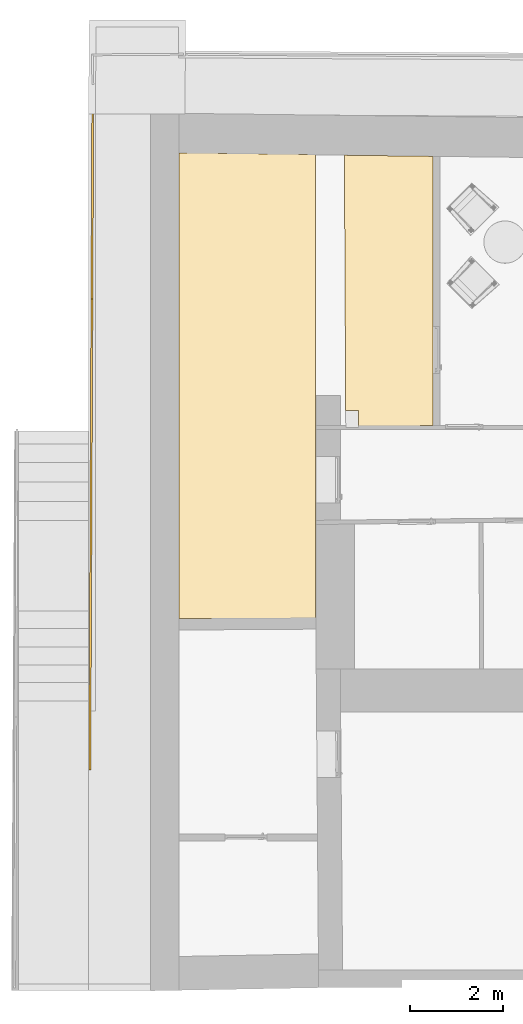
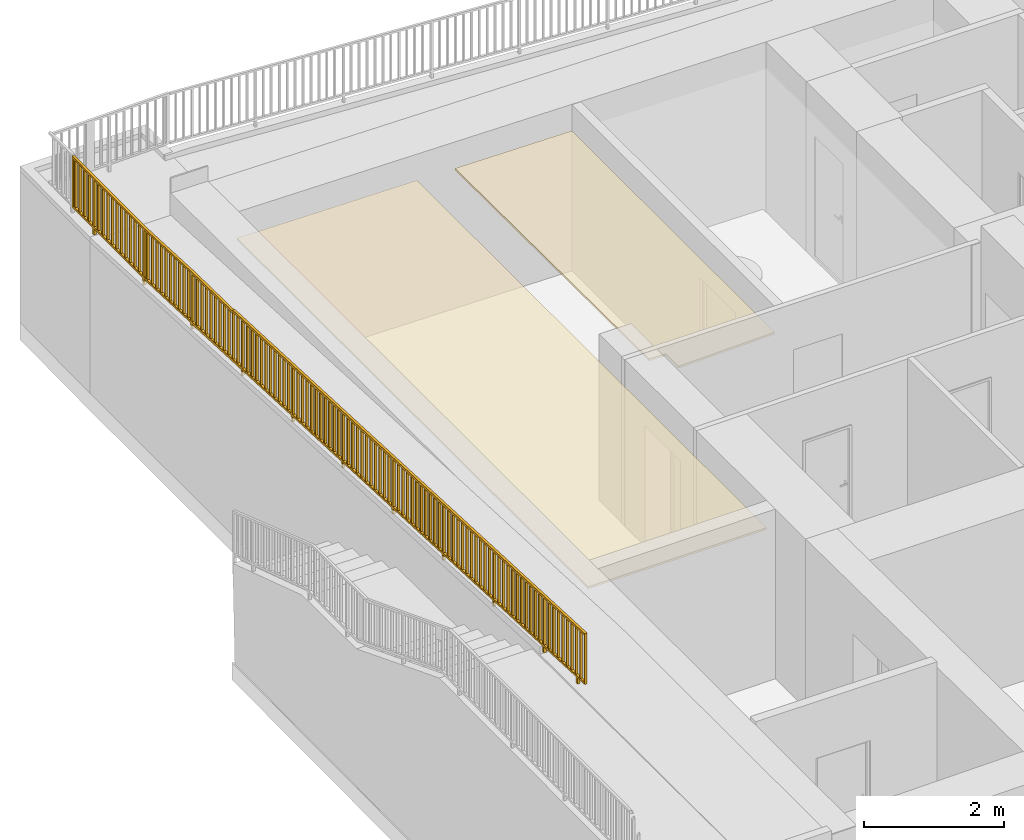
# One storey, part 13 of 17: 2 coverings, 1 railing.
"""IFC2X3 building model written with IfcOpenShell, lengths in millimetres."""

from ifc_helpers import new_model, entity, si_unit, converted_unit, derived_unit, direction, frame, origin, place, context, subcontext, project, spatial, polyline, outline, extrude, source, transform, mapped, material, layer, layer_set, layer_usage, type_object, type_shapes, element, save


model = new_model("IFC2X3")

# Units and contexts
model_context = context("Model", 3, precision=0.01, world=origin(), true_north=direction((6.12303176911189e-17, 1.0)))
context_of_model = context(None, 3, precision=0.01, world=origin(), true_north=direction((6.12303176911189e-17, 1.0)))
body_context = subcontext(model_context, "Body", "Model", "MODEL_VIEW")
ifc_project = project(units=[si_unit("LENGTHUNIT", "METRE", prefix="MILLI"), si_unit("AREAUNIT", "SQUARE_METRE"), si_unit("VOLUMEUNIT", "CUBIC_METRE"), converted_unit("PLANEANGLEUNIT", "DEGREE", entity("IfcRatioMeasure", 0.0174532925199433), si_unit("PLANEANGLEUNIT", "RADIAN"), dimensions=[0, 0, 0, 0, 0, 0, 0]), si_unit("MASSUNIT", "GRAM", prefix="KILO"), derived_unit("MASSDENSITYUNIT", [(si_unit("MASSUNIT", "GRAM", prefix="KILO"), 1), (si_unit("LENGTHUNIT", "METRE"), -3)]), si_unit("TIMEUNIT", "SECOND"), si_unit("FREQUENCYUNIT", "HERTZ"), si_unit("THERMODYNAMICTEMPERATUREUNIT", "DEGREE_CELSIUS"), derived_unit("THERMALTRANSMITTANCEUNIT", [(si_unit("MASSUNIT", "GRAM", prefix="KILO"), 1), (si_unit("THERMODYNAMICTEMPERATUREUNIT", "KELVIN"), -1), (si_unit("TIMEUNIT", "SECOND"), -3)]), derived_unit("VOLUMETRICFLOWRATEUNIT", [(si_unit("LENGTHUNIT", "METRE"), 3), (si_unit("TIMEUNIT", "SECOND"), -1)]), si_unit("ELECTRICCURRENTUNIT", "AMPERE"), si_unit("ELECTRICVOLTAGEUNIT", "VOLT"), si_unit("POWERUNIT", "WATT"), si_unit("FORCEUNIT", "NEWTON", prefix="KILO"), si_unit("ILLUMINANCEUNIT", "LUX"), si_unit("LUMINOUSFLUXUNIT", "LUMEN"), si_unit("LUMINOUSINTENSITYUNIT", "CANDELA"), derived_unit("USERDEFINED", [(si_unit("MASSUNIT", "GRAM", prefix="KILO"), -1), (si_unit("LENGTHUNIT", "METRE"), -2), (si_unit("TIMEUNIT", "SECOND"), 3), (si_unit("LUMINOUSFLUXUNIT", "LUMEN"), 1)]), derived_unit("LINEARVELOCITYUNIT", [(si_unit("LENGTHUNIT", "METRE"), 1), (si_unit("TIMEUNIT", "SECOND"), -1)]), si_unit("PRESSUREUNIT", "PASCAL"), derived_unit("USERDEFINED", [(si_unit("LENGTHUNIT", "METRE"), -2), (si_unit("MASSUNIT", "GRAM", prefix="KILO"), 1), (si_unit("TIMEUNIT", "SECOND"), -2)])], contexts=[model_context, context_of_model])

# Site, building, storey
site_placement = place(None, frame((121442.264707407, 135347.995453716, -1800.0)))
site = spatial("IfcSite", under=ifc_project, at=site_placement, Name="Surface", CompositionType="ELEMENT")
building_placement = place(site_placement, origin())
building = spatial("IfcBuilding", under=site, at=building_placement, CompositionType="ELEMENT")
storey_placement = place(building_placement, frame((0.0, 0.0, -1490.0)))
storey = spatial("IfcBuildingStorey", under=building, at=storey_placement, Name="Kelder", CompositionType="ELEMENT", Elevation=-1489.99999999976)

# Railing
railing_type = type_object("IfcRailingType", Name="Railings 2", PredefinedType="NOTDEFINED")
shared_shape = source(origin(), body_context, "Body", "SweptSolid", [
    extrude(outline(polyline([(-7385.12956600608, 89.9207020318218), (-7431.74885868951, -799.628393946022), (2751.2751291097, -808.313016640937), (2752.27474206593, -789.239265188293), (3918.66476469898, -822.810457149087), (5333.66476469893, -822.810457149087), (7386.8154602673, -930.411525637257), (7433.5682323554, -38.3154908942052), (6837.65888096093, -7.08520513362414), (6843.3496635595, 101.50139548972), (6805.7739523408, 103.470655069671), (6800.08316974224, -5.1159455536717), (5396.1437697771, 68.4614006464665), (5401.8182767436, 176.737443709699), (5364.24679335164, 178.787375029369), (5358.71964137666, 73.3230327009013), (4008.76754747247, 81.372217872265), (4014.03896344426, 181.956826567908), (3976.36272855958, 182.007980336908), (3971.5366388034, 89.9207020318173), (2553.85128123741, 89.9207020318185), (2558.77823932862, 183.932662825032), (2521.10200444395, 183.983816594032), (2516.1723654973, 89.9207020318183), (1098.40710352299, 89.9207020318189), (1103.43761648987, 185.908607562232), (1068.39207804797, 185.956189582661), (1063.35907141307, 89.920702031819), (-354.406190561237, 89.9207020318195), (-349.272309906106, 187.88098055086), (-384.317848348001, 187.928562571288), (-389.454222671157, 89.9207020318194), (-1807.21948464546, 89.9207020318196), (-1801.98223630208, 189.853353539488), (-1837.02777474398, 189.900935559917), (-1842.26751675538, 89.92070203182), (-3260.03277872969, 89.9207020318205), (-3254.69216269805, 191.825726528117), (-3289.73770113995, 191.873308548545), (-3295.08081083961, 89.9207020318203), (-4712.84607281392, 89.9207020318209), (-4707.40208909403, 193.798099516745), (-4742.44762753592, 193.845681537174), (-4747.89410492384, 89.9207020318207), (-6165.65936689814, 89.9207020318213), (-6160.11201549, 195.770472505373), (-6195.1575539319, 195.818054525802), (-6200.70739900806, 89.9207020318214), (-7136.68885689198, 89.9207020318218), (-7131.07241672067, 197.088764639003), (-7171.04794009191, 197.143040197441), (-7176.66722472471, 89.9207020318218), (-7385.12956600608, 89.9207020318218)]), holes=[polyline([(2514.33809322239, 54.9207020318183), (2470.86198992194, -774.652767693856), (2358.14731924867, -774.545015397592), (2401.61777549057, 54.9207020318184), (2514.33809322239, 54.9207020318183)]), polyline([(2508.5564414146, -774.356327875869), (2551.56900189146, 46.3722178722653), (2657.74746735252, 46.3722178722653), (2614.72958755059, -774.457826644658), (2508.5564414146, -774.356327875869)]), polyline([(2381.59032857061, 54.9207020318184), (2338.51339533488, -767.036149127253), (2225.86465016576, -766.928459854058), (2268.93593964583, 54.9207020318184), (2381.59032857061, 54.9207020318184)]), polyline([(2248.90849272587, 54.9207020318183), (2205.83820658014, -766.909315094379), (2093.18946141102, -766.801625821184), (2136.25410380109, 54.9207020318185), (2248.90849272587, 54.9207020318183)]), polyline([(2116.22665688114, 54.9207020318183), (2073.16301782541, -766.782481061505), (1960.51427265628, -766.674791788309), (2003.57226795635, 54.9207020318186), (2116.22665688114, 54.9207020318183)]), polyline([(1983.5448210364, 54.9207020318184), (1940.48782907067, -766.65564702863), (1830.52078539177, -766.550521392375), (1873.57226795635, 54.9207020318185), (1983.5448210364, 54.9207020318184)]), polyline([(1853.5448210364, 54.9207020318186), (1810.49434180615, -766.531376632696), (1700.52729812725, -766.426250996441), (1743.57226795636, 54.9207020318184), (1853.5448210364, 54.9207020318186)]), polyline([(1723.5448210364, 54.9207020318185), (1680.50085454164, -766.407106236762), (1570.35541482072, -766.301810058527), (1613.39386297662, 54.9207020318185), (1723.5448210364, 54.9207020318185)]), polyline([(1593.36641605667, 54.9207020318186), (1550.32897123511, -766.282665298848), (1440.1835315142, -766.177369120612), (1483.21545799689, 54.9207020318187), (1593.36641605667, 54.9207020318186)]), polyline([(1463.18801107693, 54.9207020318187), (1420.15708792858, -766.158224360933), (1310.01164820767, -766.052928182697), (1353.03705301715, 54.9207020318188), (1463.18801107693, 54.9207020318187)]), polyline([(1333.0096060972, 54.9207020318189), (1289.98520462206, -766.033783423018), (1179.83976490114, -765.928487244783), (1222.85864803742, 54.9207020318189), (1333.0096060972, 54.9207020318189)]), polyline([(1202.83120111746, 54.9207020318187), (1159.81332131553, -765.909342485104), (1053.56027477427, -765.807767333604), (1096.57283124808, 54.9207020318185), (1202.83120111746, 54.9207020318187)]), polyline([(1061.52479913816, 54.9207020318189), (1018.57205540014, -764.66647234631), (905.857384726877, -764.558720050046), (948.80448140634, 54.920702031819), (1061.52479913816, 54.9207020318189)]), polyline([(928.777034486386, 54.9207020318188), (885.830941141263, -764.539575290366), (773.18219597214, -764.431886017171), (816.122645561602, 54.9207020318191), (928.777034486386, 54.9207020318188)]), polyline([(796.095198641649, 54.9207020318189), (753.155752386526, -764.412741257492), (640.507007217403, -764.305051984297), (683.440809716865, 54.9207020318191), (796.095198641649, 54.9207020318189)]), polyline([(663.413362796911, 54.920702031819), (620.480563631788, -764.285907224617), (507.831818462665, -764.178217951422), (550.758973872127, 54.9207020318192), (663.413362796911, 54.920702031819)]), polyline([(530.731526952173, 54.920702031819), (487.805374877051, -764.159073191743), (377.838331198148, -764.053947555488), (420.758973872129, 54.9207020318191), (530.731526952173, 54.920702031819)]), polyline([(400.731526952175, 54.9207020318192), (357.811887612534, -764.034802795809), (247.844843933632, -763.929677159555), (290.75897387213, 54.9207020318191), (400.731526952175, 54.9207020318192)]), polyline([(270.731526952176, 54.9207020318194), (227.818400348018, -763.910532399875), (117.672960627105, -763.80523622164), (160.580568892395, 54.9207020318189), (270.731526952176, 54.9207020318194)]), polyline([(140.553121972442, 54.9207020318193), (97.6465170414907, -763.786091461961), (-12.498922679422, -763.680795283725), (30.4021639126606, 54.9207020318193), (140.553121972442, 54.9207020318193)]), polyline([(10.3747169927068, 54.9207020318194), (-32.5253662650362, -763.661650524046), (-142.670805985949, -763.55635434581), (-99.7762410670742, 54.9207020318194), (10.3747169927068, 54.9207020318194)]), polyline([(-119.803687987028, 54.9207020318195), (-162.697249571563, -763.537209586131), (-272.842689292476, -763.431913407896), (-229.954646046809, 54.9207020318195), (-119.803687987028, 54.9207020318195)]), polyline([(-249.982092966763, 54.9207020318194), (-292.86913287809, -763.412768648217), (-399.12217941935, -763.311193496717), (-356.240462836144, 54.9207020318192), (-249.982092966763, 54.9207020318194)]), polyline([(-391.185127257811, 56.8930750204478), (-434.137870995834, -762.694099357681), (-546.852541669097, -762.586347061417), (-503.905444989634, 56.8930750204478), (-391.185127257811, 56.8930750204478)]), polyline([(-523.932891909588, 56.8930750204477), (-566.878985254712, -762.567202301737), (-679.527730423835, -762.459513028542), (-636.587280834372, 56.8930750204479), (-523.932891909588, 56.8930750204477)]), polyline([(-656.614727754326, 56.8930750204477), (-699.554174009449, -762.440368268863), (-812.202919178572, -762.332678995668), (-769.26911667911, 56.893075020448), (-656.614727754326, 56.8930750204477)]), polyline([(-789.296563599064, 56.8930750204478), (-832.229362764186, -762.313534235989), (-944.878107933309, -762.205844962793), (-901.950952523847, 56.8930750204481), (-789.296563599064, 56.8930750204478)]), polyline([(-921.978399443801, 56.8930750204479), (-964.904551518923, -762.186700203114), (-1074.87159519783, -762.081574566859), (-1031.95095252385, 56.893075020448), (-921.978399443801, 56.8930750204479)]), polyline([(-1051.9783994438, 56.8930750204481), (-1094.89803878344, -762.06242980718), (-1204.86508246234, -761.957304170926), (-1161.95095252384, 56.8930750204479), (-1051.9783994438, 56.8930750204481)]), polyline([(-1181.9783994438, 56.8930750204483), (-1224.89152604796, -761.938159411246), (-1335.03696576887, -761.832863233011), (-1292.12935750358, 56.8930750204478), (-1181.9783994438, 56.8930750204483)]), polyline([(-1312.15680442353, 56.8930750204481), (-1355.06340935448, -761.813718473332), (-1465.2088490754, -761.708422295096), (-1422.30776248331, 56.8930750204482), (-1312.15680442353, 56.8930750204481)]), polyline([(-1442.33520940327, 56.8930750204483), (-1485.23529266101, -761.689277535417), (-1595.38073238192, -761.583981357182), (-1552.48616746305, 56.8930750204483), (-1442.33520940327, 56.8930750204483)]), polyline([(-1572.513614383, 56.8930750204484), (-1615.40717596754, -761.564836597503), (-1725.55261568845, -761.459540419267), (-1682.66457244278, 56.8930750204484), (-1572.513614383, 56.8930750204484)]), polyline([(-1702.69201936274, 56.8930750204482), (-1745.57905927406, -761.440395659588), (-1851.83210581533, -761.338820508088), (-1808.95038923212, 56.893075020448), (-1702.69201936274, 56.8930750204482)]), polyline([(-1843.99842134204, 56.8930750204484), (-1886.95116508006, -762.69409935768), (-1999.66583575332, -762.586347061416), (-1956.71873907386, 56.8930750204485), (-1843.99842134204, 56.8930750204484)]), polyline([(-1976.74618599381, 56.8930750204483), (-2019.69227933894, -762.567202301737), (-2132.34102450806, -762.459513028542), (-2089.4005749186, 56.8930750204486), (-1976.74618599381, 56.8930750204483)]), polyline([(-2109.42802183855, 56.8930750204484), (-2152.36746809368, -762.440368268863), (-2265.0162132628, -762.332678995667), (-2222.08241076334, 56.8930750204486), (-2109.42802183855, 56.8930750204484)]), polyline([(-2242.10985768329, 56.8930750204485), (-2285.04265684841, -762.313534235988), (-2397.69140201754, -762.205844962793), (-2354.76424660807, 56.8930750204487), (-2242.10985768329, 56.8930750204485)]), polyline([(-2374.79169352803, 56.8930750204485), (-2417.71784560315, -762.186700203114), (-2527.68488928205, -762.081574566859), (-2484.76424660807, 56.8930750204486), (-2374.79169352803, 56.8930750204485)]), polyline([(-2504.79169352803, 56.8930750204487), (-2547.71133286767, -762.06242980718), (-2657.67837654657, -761.957304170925), (-2614.76424660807, 56.8930750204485), (-2504.79169352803, 56.8930750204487)]), polyline([(-2634.79169352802, 56.8930750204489), (-2677.70482013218, -761.938159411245), (-2787.8502598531, -761.83286323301), (-2744.94265158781, 56.8930750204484), (-2634.79169352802, 56.8930750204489)]), polyline([(-2764.97009850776, 56.8930750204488), (-2807.87670343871, -761.813718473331), (-2918.02214315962, -761.708422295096), (-2875.12105656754, 56.8930750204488), (-2764.97009850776, 56.8930750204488)]), polyline([(-2895.14850348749, 56.8930750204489), (-2938.04858674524, -761.689277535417), (-3048.19402646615, -761.583981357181), (-3005.29946154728, 56.8930750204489), (-2895.14850348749, 56.8930750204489)]), polyline([(-3025.32690846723, 56.893075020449), (-3068.22047005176, -761.564836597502), (-3178.36590977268, -761.459540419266), (-3135.47786652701, 56.893075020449), (-3025.32690846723, 56.893075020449)]), polyline([(-3155.50531344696, 56.8930750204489), (-3198.39235335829, -761.440395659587), (-3304.64539989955, -761.338820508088), (-3261.76368331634, 56.8930750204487), (-3155.50531344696, 56.8930750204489)]), polyline([(-3296.81171542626, 56.893075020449), (-3339.76445916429, -762.69409935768), (-3452.47912983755, -762.586347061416), (-3409.53203315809, 56.8930750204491), (-3296.81171542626, 56.893075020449)]), polyline([(-3429.55948007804, 56.8930750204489), (-3472.50557342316, -762.567202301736), (-3585.15431859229, -762.459513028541), (-3542.21386900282, 56.8930750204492), (-3429.55948007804, 56.8930750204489)]), polyline([(-3562.24131592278, 56.893075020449), (-3605.1807621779, -762.440368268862), (-3717.82950734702, -762.332678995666), (-3674.89570484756, 56.8930750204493), (-3562.24131592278, 56.893075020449)]), polyline([(-3694.92315176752, 56.8930750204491), (-3737.85595093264, -762.313534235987), (-3850.50469610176, -762.205844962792), (-3807.5775406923, 56.8930750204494), (-3694.92315176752, 56.8930750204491)]), polyline([(-3827.60498761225, 56.8930750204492), (-3870.53113968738, -762.186700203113), (-3980.49818336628, -762.081574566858), (-3937.5775406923, 56.8930750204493), (-3827.60498761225, 56.8930750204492)]), polyline([(-3957.60498761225, 56.8930750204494), (-4000.52462695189, -762.062429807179), (-4110.49167063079, -761.957304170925), (-4067.5775406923, 56.8930750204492), (-3957.60498761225, 56.8930750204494)]), polyline([(-4087.60498761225, 56.8930750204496), (-4130.51811421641, -761.938159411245), (-4240.66355393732, -761.832863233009), (-4197.75594567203, 56.893075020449), (-4087.60498761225, 56.8930750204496)]), polyline([(-4217.78339259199, 56.8930750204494), (-4260.68999752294, -761.81371847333), (-4370.83543724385, -761.708422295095), (-4327.93435065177, 56.8930750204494), (-4217.78339259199, 56.8930750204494)]), polyline([(-4347.96179757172, 56.8930750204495), (-4390.86188082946, -761.689277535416), (-4501.00732055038, -761.58398135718), (-4458.1127556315, 56.8930750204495), (-4347.96179757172, 56.8930750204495)]), polyline([(-4478.14020255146, 56.8930750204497), (-4521.03376413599, -761.564836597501), (-4631.1792038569, -761.459540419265), (-4588.29116061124, 56.8930750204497), (-4478.14020255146, 56.8930750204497)]), polyline([(-4608.31860753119, 56.8930750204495), (-4651.20564744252, -761.440395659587), (-4757.45869398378, -761.338820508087), (-4714.57697740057, 56.8930750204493), (-4608.31860753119, 56.8930750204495)]), polyline([(-4749.62500951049, 56.8930750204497), (-4792.57775324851, -762.694099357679), (-4905.29242392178, -762.586347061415), (-4862.34532724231, 56.8930750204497), (-4749.62500951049, 56.8930750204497)]), polyline([(-4882.37277416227, 56.8930750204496), (-4925.31886750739, -762.567202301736), (-5037.96761267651, -762.45951302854), (-4995.02716308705, 56.8930750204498), (-4882.37277416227, 56.8930750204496)]), polyline([(-5015.05461000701, 56.8930750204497), (-5057.99405626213, -762.440368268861), (-5170.64280143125, -762.332678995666), (-5127.70899893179, 56.8930750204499), (-5015.05461000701, 56.8930750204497)]), polyline([(-5147.73644585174, 56.8930750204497), (-5190.66924501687, -762.313534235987), (-5303.31799018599, -762.205844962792), (-5260.39083477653, 56.89307502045), (-5147.73644585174, 56.8930750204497)]), polyline([(-5280.41828169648, 56.8930750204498), (-5323.3444337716, -762.186700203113), (-5433.31147745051, -762.081574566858), (-5390.39083477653, 56.8930750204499), (-5280.41828169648, 56.8930750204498)]), polyline([(-5410.41828169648, 56.89307502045), (-5453.33792103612, -762.062429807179), (-5563.30496471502, -761.957304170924), (-5520.39083477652, 56.8930750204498), (-5410.41828169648, 56.89307502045)]), polyline([(-5540.41828169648, 56.8930750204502), (-5583.33140830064, -761.938159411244), (-5693.47684802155, -761.832863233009), (-5650.56923975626, 56.8930750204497), (-5540.41828169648, 56.8930750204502)]), polyline([(-5670.59668667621, 56.89307502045), (-5713.50329160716, -761.81371847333), (-5823.64873132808, -761.708422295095), (-5780.74764473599, 56.8930750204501), (-5670.59668667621, 56.89307502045)]), polyline([(-5800.77509165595, 56.8930750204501), (-5843.67517491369, -761.689277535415), (-5953.8206146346, -761.58398135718), (-5910.92604971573, 56.8930750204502), (-5800.77509165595, 56.8930750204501)]), polyline([(-5930.95349663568, 56.8930750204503), (-5973.84705822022, -761.564836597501), (-6083.99249794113, -761.459540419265), (-6041.10445469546, 56.8930750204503), (-5930.95349663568, 56.8930750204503)]), polyline([(-6061.13190161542, 56.8930750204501), (-6104.01894152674, -761.440395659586), (-6210.271988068, -761.338820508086), (-6167.3902714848, 56.89307502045), (-6061.13190161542, 56.8930750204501)]), polyline([(-6202.43830359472, 56.8930750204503), (-6245.39104733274, -762.694099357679), (-6358.105718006, -762.586347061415), (-6315.15862132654, 56.8930750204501), (-6202.43830359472, 56.8930750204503)]), polyline([(-6335.18606824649, 56.8930750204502), (-6378.13216159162, -762.567202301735), (-6490.78090676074, -762.45951302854), (-6447.84045717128, 56.8930750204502), (-6335.18606824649, 56.8930750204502)]), polyline([(-6467.86790409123, 56.8930750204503), (-6510.80735034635, -762.440368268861), (-6623.45609551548, -762.332678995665), (-6580.52229301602, 56.8930750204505), (-6467.86790409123, 56.8930750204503)]), polyline([(-6600.54973993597, 56.8930750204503), (-6643.48253910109, -762.313534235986), (-6756.13128427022, -762.205844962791), (-6713.20412886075, 56.8930750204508), (-6600.54973993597, 56.8930750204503)]), polyline([(-6733.23157578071, 56.8930750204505), (-6776.15772785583, -762.186700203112), (-6886.12477153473, -762.081574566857), (-6843.20412886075, 56.8930750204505), (-6733.23157578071, 56.8930750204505)]), polyline([(-6863.23157578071, 56.8930750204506), (-6906.15121512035, -762.062429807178), (-7016.11825879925, -761.957304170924), (-6973.20412886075, 56.8930750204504), (-6863.23157578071, 56.8930750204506)]), polyline([(-6993.2315757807, 56.8930750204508), (-7036.14470238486, -761.938159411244), (-7146.29014210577, -761.832863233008), (-7103.38253384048, 56.8930750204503), (-6993.2315757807, 56.8930750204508)]), polyline([(-7123.40998076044, 56.8930750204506), (-7166.31658569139, -761.813718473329), (-7276.4620254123, -761.708422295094), (-7233.56093882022, 56.8930750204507), (-7123.40998076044, 56.8930750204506)]), polyline([(-7253.58838574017, 56.8930750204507), (-7296.48846899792, -761.689277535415), (-7406.63390871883, -761.583981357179), (-7363.73934379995, 56.8930750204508), (-7253.58838574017, 56.8930750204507)]), polyline([(3969.25435945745, 46.3722178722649), (3925.8795730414, -781.268010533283), (3813.32902741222, -778.028565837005), (3856.53404172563, 46.3722178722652), (3969.25435945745, 46.3722178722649)]), polyline([(3963.2156136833, -787.810457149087), (4006.93381560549, 46.3825294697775), (4087.82334128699, 45.9002199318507), (4044.13041613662, -787.810457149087), (3963.2156136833, -787.810457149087)]), polyline([(3836.50659480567, 46.3722178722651), (3793.33174454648, -777.453001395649), (3680.8470284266, -774.215451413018), (3723.85220588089, 46.3722178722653), (3836.50659480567, 46.3722178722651)]), polyline([(3703.82475896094, 46.3722178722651), (3660.84974556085, -773.639886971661), (3548.36502944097, -770.402336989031), (3591.17037003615, 46.3722178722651), (3703.82475896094, 46.3722178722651)]), polyline([(3571.1429231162, 46.3722178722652), (3528.36774657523, -769.826772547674), (3415.88303045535, -766.589222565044), (3458.48853419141, 46.3722178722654), (3571.1429231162, 46.3722178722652)]), polyline([(3438.46108727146, 46.372217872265), (3395.8857475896, -766.013658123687), (3286.07882810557, -762.853180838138), (3328.48853419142, 46.3722178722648), (3438.46108727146, 46.372217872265)]), polyline([(3308.46108727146, 46.3722178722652), (3266.08154523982, -762.277616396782), (3156.27462575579, -759.117139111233), (3198.48853419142, 46.3722178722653), (3308.46108727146, 46.3722178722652)]), polyline([(3178.46108727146, 46.3722178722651), (3136.27734289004, -758.541574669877), (3026.29228712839, -755.375970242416), (3068.31012921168, 46.3722178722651), (3178.46108727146, 46.3722178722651)]), polyline([(3048.28268229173, 46.3722178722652), (3006.29500426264, -754.80040580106), (2896.30994850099, -751.634801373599), (2938.13172423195, 46.3722178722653), (3048.28268229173, 46.3722178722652)]), polyline([(2918.10427731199, 46.3722178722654), (2876.31266563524, -751.059236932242), (2766.32760987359, -747.893632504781), (2807.95331925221, 46.3722178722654), (2918.10427731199, 46.3722178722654)]), polyline([(2787.92587233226, 46.3722178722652), (2745.03231074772, -772.085693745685), (2634.88687102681, -771.98039756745), (2677.77491427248, 46.3722178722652), (2787.92587233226, 46.3722178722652)]), polyline([(5464.21440135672, -794.604241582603), (5351.22275615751, -788.682600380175), (5394.3120113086, 33.5093669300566), (5507.30365650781, 27.5877257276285), (5464.21440135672, -794.604241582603)]), polyline([(5266.21423913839, 38.873980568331), (5222.88954358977, -787.810457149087), (5110.23515466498, -787.810457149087), (5153.59504203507, 39.5454805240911), (5266.21423913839, 38.873980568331)]), polyline([(5286.23542973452, 38.7546027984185), (5356.88590950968, 38.3333442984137), (5313.58954750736, -787.810457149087), (5242.91699050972, -787.810457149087), (5286.23542973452, 38.7546027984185)]), polyline([(5133.57385143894, 39.664858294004), (5090.20770774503, -787.810457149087), (4977.55331882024, -787.810457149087), (5020.95465433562, 40.3363582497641), (5133.57385143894, 39.664858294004)]), polyline([(5000.93346373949, 40.4557360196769), (4957.52587190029, -787.810457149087), (4844.87148297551, -787.810457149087), (4888.31426663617, 41.1272359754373), (5000.93346373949, 40.4557360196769)]), polyline([(4868.29307604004, 41.2466137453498), (4824.84403605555, -787.810457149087), (4714.87148297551, -787.810457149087), (4758.3548770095, 41.9021280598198), (4868.29307604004, 41.2466137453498)]), polyline([(4738.33368641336, 42.0215058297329), (4694.84403605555, -787.810457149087), (4584.87148297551, -787.810457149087), (4628.39548738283, 42.6770201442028), (4738.33368641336, 42.0215058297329)]), polyline([(4608.37429678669, 42.7963979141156), (4564.84403605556, -787.810457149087), (4454.69307799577, -787.810457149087), (4498.2577485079, 43.4529756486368), (4608.37429678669, 42.7963979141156)]), polyline([(4478.23655791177, 43.5723534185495), (4434.66563107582, -787.810457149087), (4324.51467301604, -787.810457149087), (4368.12000963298, 44.2289311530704), (4478.23655791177, 43.5723534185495)]), polyline([(4348.09881903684, 44.3483089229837), (4304.48722609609, -787.810457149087), (4194.33626803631, -787.810457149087), (4237.98227075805, 45.0048866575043), (4348.09881903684, 44.3483089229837)]), polyline([(4217.96108016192, 45.1242644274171), (4174.30882111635, -787.810457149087), (4064.15786305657, -787.810457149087), (4107.84453188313, 45.7808421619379), (4217.96108016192, 45.1242644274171)]), polyline([(6682.83410104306, -34.0192143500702), (6639.74484589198, -856.211181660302), (6527.39902323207, -850.323386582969), (6570.48827838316, -28.131419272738), (6682.83410104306, -34.0192143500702)]), polyline([(6702.80669173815, -35.0659334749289), (6798.25141127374, -40.0679792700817), (6755.16215612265, -862.259946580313), (6659.71743658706, -857.25790078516), (6702.80669173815, -35.0659334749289)]), polyline([(6550.51568768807, -27.0847001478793), (6507.42643253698, -849.276667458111), (6395.08060987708, -843.388872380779), (6438.16986502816, -21.1969050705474), (6550.51568768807, -27.0847001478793)]), polyline([(6418.19727433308, -20.1501859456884), (6375.10801918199, -842.34215325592), (6262.76219652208, -836.454358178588), (6305.85145167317, -14.2623908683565), (6418.19727433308, -20.1501859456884)]), polyline([(6285.87886097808, -13.2156717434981), (6242.789605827, -835.407639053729), (6133.11827332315, -829.660008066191), (6176.20752847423, -7.46804075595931), (6285.87886097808, -13.2156717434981)]), polyline([(6156.23493777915, -6.42132163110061), (6113.14568262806, -828.613288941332), (6003.47435012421, -822.865657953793), (6046.5636052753, -0.673690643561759), (6156.23493777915, -6.42132163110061)]), polyline([(6026.59101458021, 0.373028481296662), (5983.50175942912, -821.818938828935), (5873.65251060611, -816.06198364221), (5916.7417657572, 6.12998366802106), (6026.59101458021, 0.373028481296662)]), polyline([(5896.76917506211, 7.17670279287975), (5853.67991991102, -815.015264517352), (5743.83067108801, -809.258309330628), (5786.9199262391, 12.9336579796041), (5896.76917506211, 7.17670279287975)]), polyline([(5766.94733554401, 13.9803771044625), (5723.85808039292, -808.211590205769), (5614.00883156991, -802.454635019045), (5657.098086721, 19.7373322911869), (5766.94733554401, 13.9803771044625)]), polyline([(5637.12549602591, 20.7840514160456), (5594.03624087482, -801.407915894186), (5484.18699205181, -795.650960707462), (5527.2762472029, 26.5410066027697), (5637.12549602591, 20.7840514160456)]), polyline([(7217.10090213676, -62.0189509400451), (7174.01164698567, -884.210918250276), (7061.66582432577, -878.323123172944), (7104.75507947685, -56.1311558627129), (7217.10090213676, -62.0189509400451)]), polyline([(7237.07349283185, -63.0656700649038), (7344.42616781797, -68.6917853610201), (7301.33691266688, -890.883752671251), (7193.98423768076, -885.257637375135), (7237.07349283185, -63.0656700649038)]), polyline([(7084.78248878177, -55.0844367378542), (7041.69323363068, -877.276404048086), (6929.34741097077, -871.388608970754), (6972.43666612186, -49.1966416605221), (7084.78248878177, -55.0844367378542)]), polyline([(6952.46407542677, -48.1499225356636), (6909.37482027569, -870.341889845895), (6792.73786734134, -864.229206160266), (6835.82712249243, -42.0372388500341), (6952.46407542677, -48.1499225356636)]), polyline([(7346.27524173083, -893.238870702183), (7321.30950336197, -891.93047179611), (7364.39875851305, -69.7385044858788), (7389.36449688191, -71.0469033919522), (7346.27524173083, -893.238870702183)])]), frame((-120059.246918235, -120178.717626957, 1700.90383692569), z_axis=(-1.0, 0.0, 0.0), x_axis=(0.0, 0.998629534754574, -0.0523359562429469)), (0.0, 0.0, -1.0), 41.4980808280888),
])
type_shapes(railing_type, [shared_shape])
railing_placement = place(storey_placement, frame((4.49358069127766, -1844.73533581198, 1490.0), z_axis=(0.0, 0.0, 1.0), x_axis=(0.999990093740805, -0.00445111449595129, 0.0)))
element("IfcRailing", 1, at=railing_placement, inside=storey, type_object=railing_type, Name="Railings 2:Railings 2", ObjectType="Railings 2", PredefinedType="NOTDEFINED", context=body_context, shape_type="MappedRepresentation", body=[
    mapped(shared_shape, transform((0.0, 0.0, 0.0), scale=1.0)),
])

# Space
space_placement = place(storey_placement, origin())
space = spatial("IfcSpace", under=storey, at=space_placement, Name="018", CompositionType="ELEMENT", InteriorOrExteriorSpace="INTERNAL")

# Coverings
ifc_material = material(Name="EST. Ripplagi. Moodullagi. 600 x 600 mm")
ifc_layer = layer(ifc_material, 35.0)
ifc_layer_set = layer_set([ifc_layer], Name="Compound Ceiling:600x600 Focus")
ifc_layer_usage_1 = layer_usage(ifc_layer_set, "AXIS3", "POSITIVE", 0.0)
covering_1_placement = place(space_placement, origin())
element("IfcCovering", 2, at=covering_1_placement, inside=space, material=ifc_layer_usage_1, Name="Compound Ceiling:600x600 Focus", ObjectType="Compound Ceiling:600x600 Focus", PredefinedType="CEILING", context=body_context, shape_type="SweptSolid", body=[
    extrude(outline(polyline([(-1476.97733385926, -5018.20897624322), (1476.97733385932, -5018.20897624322), (1476.97733385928, 4999.88053462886), (-1476.9773338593, 5036.53741785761), (-1476.97733385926, -5018.20897624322)])), frame((-117202.753944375, -120580.558727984, 2500.0)), (0.0, 0.0, 1.0), 35.0),
])
ifc_layer_usage_2 = layer_usage(ifc_layer_set, "AXIS3", "POSITIVE", 0.0)
covering_2_placement = place(storey_placement, origin())
element("IfcCovering", 3, at=covering_2_placement, inside=storey, material=ifc_layer_usage_2, Name="Compound Ceiling:600x600 Focus", ObjectType="Compound Ceiling:600x600 Focus", PredefinedType="CEILING", context=body_context, shape_type="SweptSolid", body=[
    extrude(outline(polyline([(-2039.11033774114, -1172.92376016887), (3770.28430012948, -1172.92376016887), (3793.74008522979, 745.607237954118), (-1717.97206015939, 717.23491615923), (-1721.50759406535, 440.770450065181), (-2085.43439339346, 442.234916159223), (-2039.11033774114, -1172.92376016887)])), frame((-114359.282253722, -119390.81273474, 2500.0), z_axis=(0.0, 0.0, 1.0), x_axis=(0.0, 1.0, 0.0)), (0.0, 0.0, 1.0), 35.0),
])

save(model, "model.ifc")
